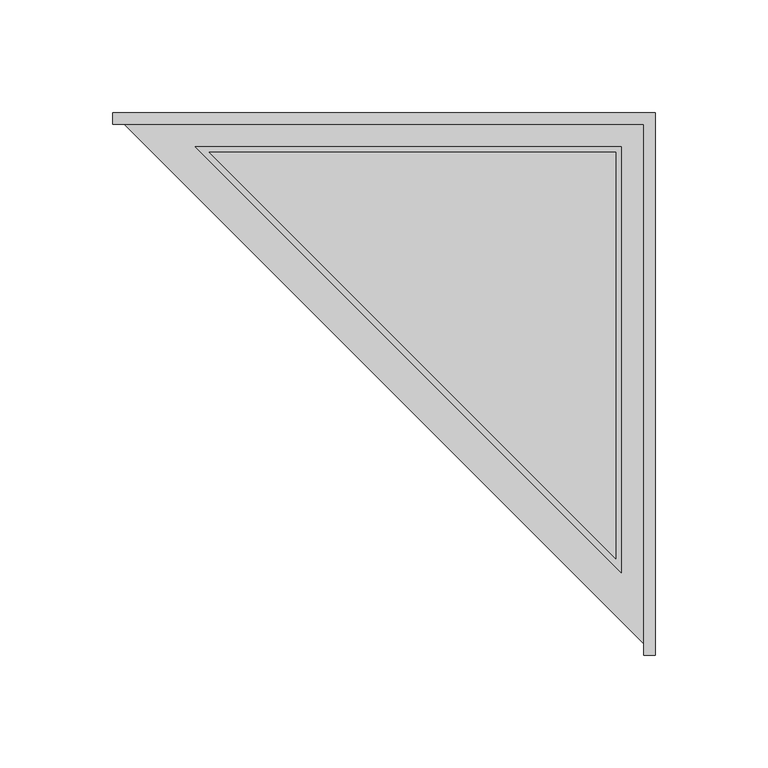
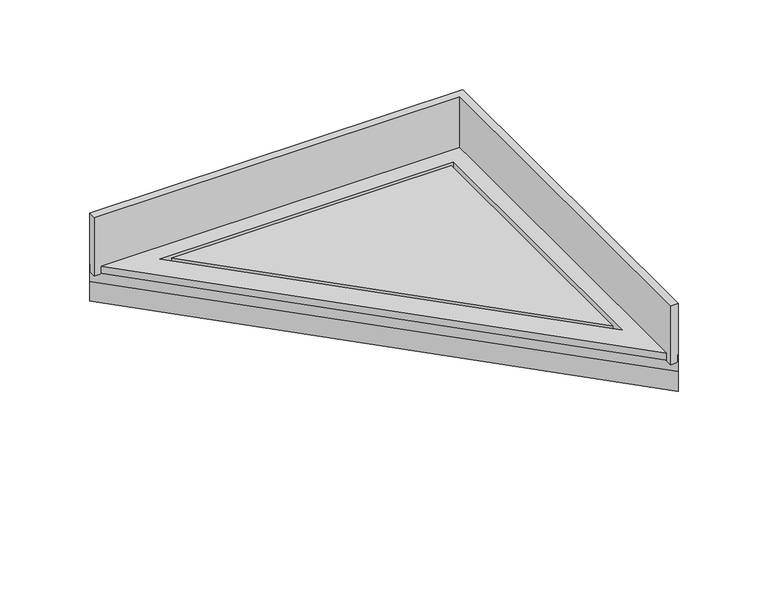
"""IFC4 building model written with IfcOpenShell, lengths in millimetres: sanitary terminal geometry, NLRS_PF_52_UN_Aqua Jewels Delta_in_uitloop_Easydrain : Aqua Jewels Delta zijuitloop hoog 50mm, zij-ingang 40mm."""

from ifc_helpers import new_model, si_unit, frame, origin, place, context, project, spatial, polyline, outline, extrude, faceted_brep, source, transform, mapped, element, save


def sanitary_terminal_5b34698b(model_context):
    return source(origin(), model_context, "Body", "SolidModel", [
        extrude(outline(polyline([(46.5, 46.5), (46.5, -133.7512627), (-133.7512627, 46.5), (46.5, 46.5)])), frame((0.0, 0.0, -5.0), z_axis=(0.0, 0.0, 1.0), x_axis=(1.0, 0.0, 0.0)), (0.0, 0.0, 1.0), 5.0),
        extrude(outline(polyline([(64.0, -176.4163056), (-176.4163056, 64.0), (64.0, 64.0), (64.0, -176.4163056)]), holes=[polyline([(-139.7867966, 49.0), (49.0, -139.7867966), (49.0, 49.0), (-139.7867966, 49.0)])]), frame((0.0, 0.0, -5.0), z_axis=(0.0, 0.0, 1.0), x_axis=(1.0, 0.0, 0.0)), (0.0, 0.0, 1.0), 5.0),
        faceted_brep([(64.0, 64.0, -11.5), (64.0, -176.4163056, -11.5), (-176.4163056, 64.0, -11.5), (64.0, 64.0, -5.0), (-176.4163056, 64.0, -5.0), (64.0, -176.4163056, -5.0), (49.0, 49.0, -5.0), (49.0, -139.7867966, -5.0), (-139.7867966, 49.0, -5.0), (46.5, -133.7512627, -5.0), (46.5, 46.5, -5.0), (-133.7512627, 46.5, -5.0), (49.0, 49.0, -8.0), (49.0, -139.7867966, -8.0), (46.5, -133.7512627, -8.0), (46.5, 46.5, -8.0), (-139.7867966, 49.0, -8.0), (-133.7512627, 46.5, -8.0)], [[[0, 1, 2]], [[3, 4, 5], [6, 7, 8]], [[9, 10, 11]], [[0, 2, 4, 3]], [[2, 1, 5, 4]], [[1, 0, 3, 5]], [[12, 13, 7, 6]], [[9, 14, 15, 10]], [[7, 13, 16, 8]], [[14, 9, 11, 17]], [[12, 6, 8, 16]], [[13, 12, 16], [15, 14, 17]], [[10, 15, 17, 11]]]),
        extrude(outline(polyline([(64.0, 64.0), (64.0, -176.4163056), (-176.4163056, 64.0), (64.0, 64.0)])), frame((0.0, 0.0, -25.0), z_axis=(0.0, 0.0, 1.0), x_axis=(1.0, 0.0, 0.0)), (0.0, 0.0, 1.0), 13.5),
        extrude(outline(polyline([(64.0, -176.4163056), (59.0, -176.4163056), (59.0, 59.0), (-176.4163056, 59.0), (-176.4163056, 64.0), (64.0, 64.0), (64.0, -176.4163056)])), frame((0.0, 0.0, -5.0), z_axis=(0.0, 0.0, 1.0), x_axis=(1.0, 0.0, 0.0)), (0.0, 0.0, 1.0), 40.0),
    ])


if __name__ == "__main__":
    model = new_model("IFC4")
    model_context = context("Model", 3, world=origin())
    ifc_project = project(units=[si_unit("LENGTHUNIT", "METRE", prefix="MILLI")], contexts=[model_context])
    site = spatial("IfcSite", under=ifc_project)
    building = spatial("IfcBuilding", under=site)
    placement = place(None, origin())
    sanitary_terminal_shape = sanitary_terminal_5b34698b(model_context)
    element("IfcSanitaryTerminal", 1, ObjectType="NLRS_PF_52_UN_Aqua Jewels Delta_in_uitloop_Easydrain : Aqua Jewels Delta zijuitloop hoog 50mm, zij-ingang 40mm", at=placement, inside=building, context=model_context, shape_type="MappedRepresentation", body=[
        mapped(sanitary_terminal_shape, transform((0.0, 0.0, 0.0), x_axis=(1.0, 0.0, 0.0), y_axis=(0.0, 1.0, 0.0), z_axis=(0.0, 0.0, 1.0))),
    ])
    save(model, "model.ifc")
